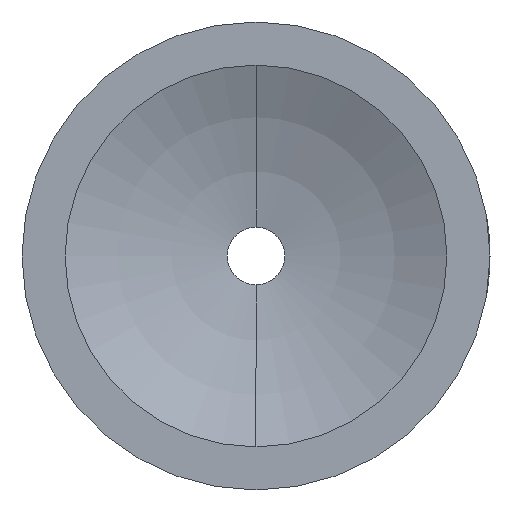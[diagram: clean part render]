
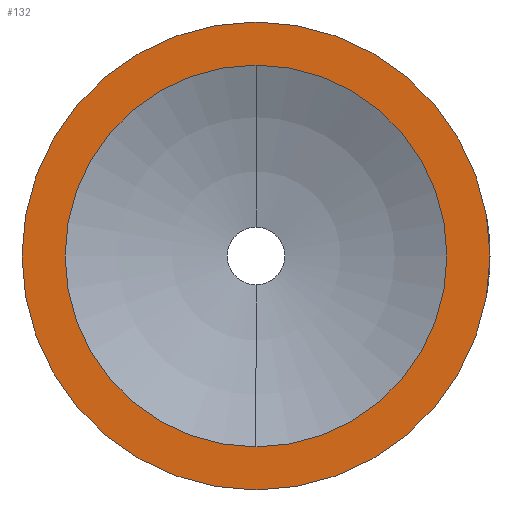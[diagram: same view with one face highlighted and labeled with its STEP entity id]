
A CAD part, left-side view. The second image highlights one B-rep face of the part: STEP entity #132.
In plain terms, the highlighted planar face has unit normal (-1, 0, 0).
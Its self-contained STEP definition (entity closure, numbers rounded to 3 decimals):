
#11 = CARTESIAN_POINT ( 'NONE',  ( 0., 0., -19. ) ) ;
#19 = AXIS2_PLACEMENT_3D ( 'NONE', #472, #248, #328 ) ;
#29 = ORIENTED_EDGE ( 'NONE', *, *, #533, .T. ) ;
#31 = CIRCLE ( 'NONE', #243, 15.5 ) ;
#39 = DIRECTION ( 'NONE',  ( -1., 0., 0. ) ) ;
#44 = DIRECTION ( 'NONE',  ( 0., 0., 1. ) ) ;
#53 = CARTESIAN_POINT ( 'NONE',  ( 0., 0., 0. ) ) ;
#61 = PLANE ( 'NONE',  #19 ) ;
#65 = DIRECTION ( 'NONE',  ( -1., 0., 0. ) ) ;
#77 = DIRECTION ( 'NONE',  ( -1., 0., 0. ) ) ;
#79 = CARTESIAN_POINT ( 'NONE',  ( 0., 0., -15.5 ) ) ;
#84 = CIRCLE ( 'NONE', #197, 15.5 ) ;
#87 = VERTEX_POINT ( 'NONE', #79 ) ;
#91 = EDGE_LOOP ( 'NONE', ( #310, #188 ) ) ;
#93 = DIRECTION ( 'NONE',  ( 0., 0., 1. ) ) ;
#116 = VERTEX_POINT ( 'NONE', #547 ) ;
#132 = ADVANCED_FACE ( 'NONE', ( #489, #327 ), #61, .F. ) ;
#133 = DIRECTION ( 'NONE',  ( -1., 0., 0. ) ) ;
#139 = DIRECTION ( 'NONE',  ( 0., 0., 1. ) ) ;
#188 = ORIENTED_EDGE ( 'NONE', *, *, #268, .F. ) ;
#194 = EDGE_CURVE ( 'NONE', #116, #87, #31, .T. ) ;
#197 = AXIS2_PLACEMENT_3D ( 'NONE', #340, #65, #324 ) ;
#202 = VERTEX_POINT ( 'NONE', #544 ) ;
#243 = AXIS2_PLACEMENT_3D ( 'NONE', #550, #77, #93 ) ;
#248 = DIRECTION ( 'NONE',  ( 1., 0., 0. ) ) ;
#254 = CARTESIAN_POINT ( 'NONE',  ( 0., 0., 0. ) ) ;
#265 = VERTEX_POINT ( 'NONE', #11 ) ;
#268 = EDGE_CURVE ( 'NONE', #87, #116, #84, .T. ) ;
#310 = ORIENTED_EDGE ( 'NONE', *, *, #194, .F. ) ;
#317 = AXIS2_PLACEMENT_3D ( 'NONE', #254, #133, #139 ) ;
#324 = DIRECTION ( 'NONE',  ( 0., 0., 1. ) ) ;
#327 = FACE_OUTER_BOUND ( 'NONE', #477, .T. ) ;
#328 = DIRECTION ( 'NONE',  ( 0., 0., -1. ) ) ;
#340 = CARTESIAN_POINT ( 'NONE',  ( 0., 0., 0. ) ) ;
#366 = ORIENTED_EDGE ( 'NONE', *, *, #390, .T. ) ;
#390 = EDGE_CURVE ( 'NONE', #202, #265, #462, .T. ) ;
#462 = CIRCLE ( 'NONE', #525, 19. ) ;
#472 = CARTESIAN_POINT ( 'NONE',  ( 0., 2.25, 0. ) ) ;
#477 = EDGE_LOOP ( 'NONE', ( #366, #29 ) ) ;
#489 = FACE_BOUND ( 'NONE', #91, .T. ) ;
#525 = AXIS2_PLACEMENT_3D ( 'NONE', #53, #39, #44 ) ;
#526 = CIRCLE ( 'NONE', #317, 19. ) ;
#533 = EDGE_CURVE ( 'NONE', #265, #202, #526, .T. ) ;
#544 = CARTESIAN_POINT ( 'NONE',  ( 0., 0., 19. ) ) ;
#547 = CARTESIAN_POINT ( 'NONE',  ( 0., 0., 15.5 ) ) ;
#550 = CARTESIAN_POINT ( 'NONE',  ( 0., 0., 0. ) ) ;
